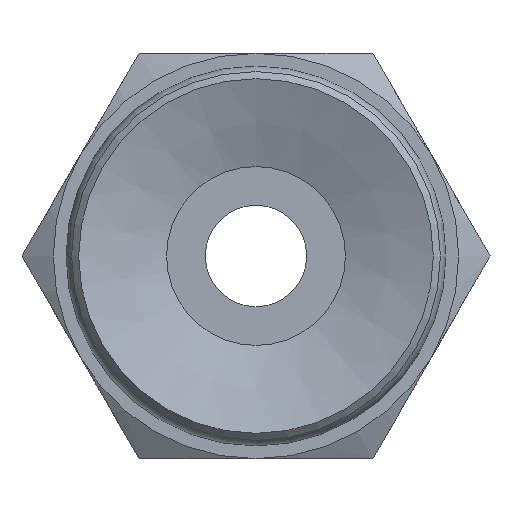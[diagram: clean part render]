
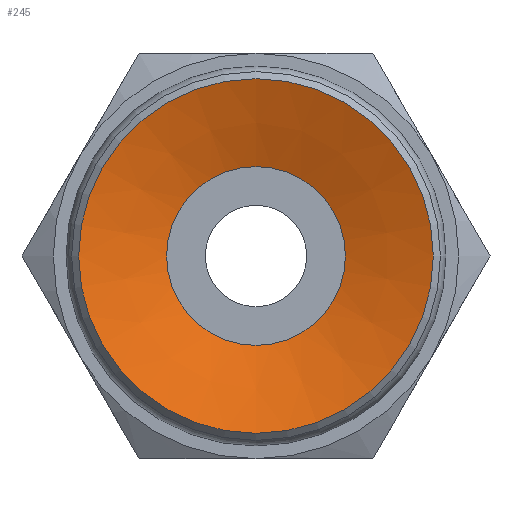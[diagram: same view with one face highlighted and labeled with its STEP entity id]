
A CAD part, front view. The second image highlights one B-rep face of the part: STEP entity #245.
In plain terms, the highlighted conical face has half-angle 70 degrees and reference radius 3.5 mm.
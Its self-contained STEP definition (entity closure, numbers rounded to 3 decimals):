
#245=ADVANCED_FACE('',(#353,#354),#355,.F.);
#353=FACE_BOUND('',#504,.T.);
#354=FACE_OUTER_BOUND('',#505,.T.);
#355=CONICAL_SURFACE('',#506,3.5,1.222);
#504=EDGE_LOOP('',(#786));
#505=EDGE_LOOP('',(#787));
#506=AXIS2_PLACEMENT_3D('',#788,#789,#790);
#786=ORIENTED_EDGE('',*,*,#955,.F.);
#787=ORIENTED_EDGE('',*,*,#949,.T.);
#788=CARTESIAN_POINT('',(0.0,0.0,0.0));
#789=DIRECTION('',(-0.0,-1.0,0.));
#790=DIRECTION('',(0.0,0.,-1.0));
#949=EDGE_CURVE('',#1063,#1063,#1064,.T.);
#955=EDGE_CURVE('',#1075,#1075,#1076,.T.);
#1063=VERTEX_POINT('',#1257);
#1064=CIRCLE('',#1258,3.5);
#1075=VERTEX_POINT('',#1269);
#1076=CIRCLE('',#1270,1.765);
#1257=CARTESIAN_POINT('',(0.0,0.,-3.5));
#1258=AXIS2_PLACEMENT_3D('',#1384,#1385,#1386);
#1269=CARTESIAN_POINT('',(0.0,0.632,-1.765));
#1270=AXIS2_PLACEMENT_3D('',#1402,#1403,#1404);
#1384=CARTESIAN_POINT('',(0.0,0.0,0.0));
#1385=DIRECTION('',(0.0,-1.0,0.));
#1386=DIRECTION('',(0.0,0.,-1.0));
#1402=CARTESIAN_POINT('',(0.0,0.632,0.0));
#1403=DIRECTION('',(0.0,-1.0,0.));
#1404=DIRECTION('',(0.0,0.,-1.0));
